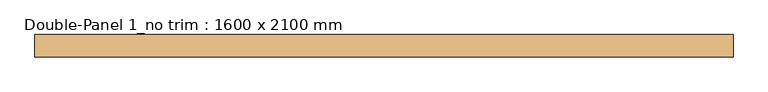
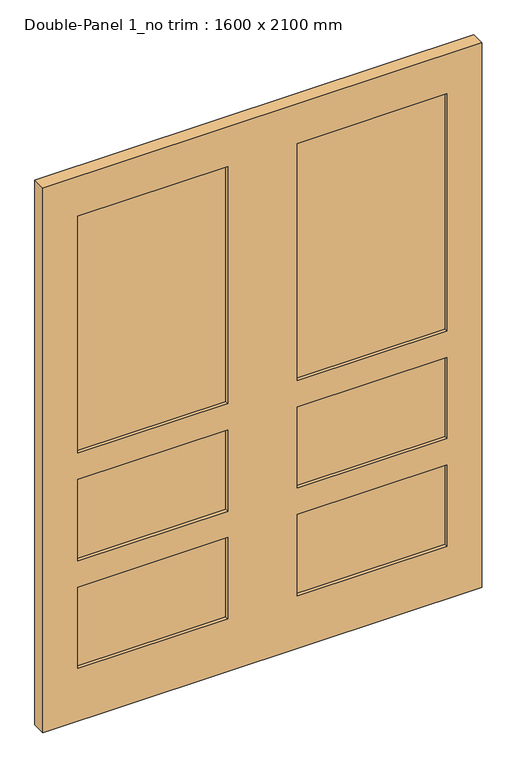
"""IFC4 building model written with IfcOpenShell, lengths in millimetres: door geometry, Double-Panel 1_no trim : 1600 x 2100 mm."""

from ifc_helpers import new_model, si_unit, frame, origin, place, context, project, spatial, polyline, outline, extrude, source, transform, mapped, element, save


def double_panel_1_no_trim_1600_x_2100_mm_973be516(model_context):
    return source(origin(), model_context, "Body", "SweptSolid", [
        extrude(outline(polyline([(127.0, 52.3), (673.0, 52.3), (673.0, 26.9), (127.0, 26.9), (127.0, 52.3)])), frame((0.0, 0.0, 1033.2), z_axis=(0.0, 0.0, 1.0), x_axis=(1.0, 0.0, 0.0)), (0.0, 0.0, 1.0), 914.4),
        extrude(outline(polyline([(127.0, 52.3), (673.0, 52.3), (673.0, 26.9), (127.0, 26.9), (127.0, 52.3)])), frame((0.0, 0.0, 618.2), z_axis=(0.0, 0.0, 1.0), x_axis=(1.0, 0.0, 0.0)), (0.0, 0.0, 1.0), 313.4),
        extrude(outline(polyline([(127.0, 52.3), (673.0, 52.3), (673.0, 26.9), (127.0, 26.9), (127.0, 52.3)])), frame((0.0, 0.0, 203.2), z_axis=(0.0, 0.0, 1.0), x_axis=(1.0, 0.0, 0.0)), (0.0, 0.0, 1.0), 313.4),
        extrude(outline(polyline([(-673.0, 52.3), (-127.0, 52.3), (-127.0, 26.9), (-673.0, 26.9), (-673.0, 52.3)])), frame((0.0, 0.0, 1033.2), z_axis=(0.0, 0.0, 1.0), x_axis=(1.0, 0.0, 0.0)), (0.0, 0.0, 1.0), 914.4),
        extrude(outline(polyline([(-673.0, 52.3), (-127.0, 52.3), (-127.0, 26.9), (-673.0, 26.9), (-673.0, 52.3)])), frame((0.0, 0.0, 618.2), z_axis=(0.0, 0.0, 1.0), x_axis=(1.0, 0.0, 0.0)), (0.0, 0.0, 1.0), 313.4),
        extrude(outline(polyline([(-673.0, 52.3), (-127.0, 52.3), (-127.0, 26.9), (-673.0, 26.9), (-673.0, 52.3)])), frame((0.0, 0.0, 203.2), z_axis=(0.0, 0.0, 1.0), x_axis=(1.0, 0.0, 0.0)), (0.0, 0.0, 1.0), 313.4),
        extrude(outline(polyline([(2100.0, -800.0), (0.0, -800.0), (0.0, 800.0), (2100.0, 800.0), (2100.0, -800.0)]), holes=[polyline([(1947.6, 127.0), (1947.6, 673.0), (1033.2, 673.0), (1033.2, 127.0), (1947.6, 127.0)]), polyline([(618.2, 673.0), (618.2, 127.0), (931.6, 127.0), (931.6, 673.0), (618.2, 673.0)]), polyline([(516.6, 673.0), (203.2, 673.0), (203.2, 127.0), (516.6, 127.0), (516.6, 673.0)]), polyline([(1947.6, -127.0), (1033.2, -127.0), (1033.2, -673.0), (1947.6, -673.0), (1947.6, -127.0)]), polyline([(931.6, -673.0), (931.6, -127.0), (618.2, -127.0), (618.2, -673.0), (931.6, -673.0)]), polyline([(203.2, -127.0), (203.2, -673.0), (516.6, -673.0), (516.6, -127.0), (203.2, -127.0)])]), frame((0.0, 14.2, 0.0), z_axis=(0.0, 1.0, 0.0), x_axis=(0.0, 0.0, 1.0)), (0.0, 0.0, 1.0), 50.8),
    ])


if __name__ == "__main__":
    model = new_model("IFC4")
    model_context = context("Model", 3, world=origin())
    ifc_project = project(units=[si_unit("LENGTHUNIT", "METRE", prefix="MILLI")], contexts=[model_context])
    site = spatial("IfcSite", under=ifc_project)
    building = spatial("IfcBuilding", under=site)
    placement = place(None, origin())
    double_panel_1_no_trim_1600_x_2100_mm_shape = double_panel_1_no_trim_1600_x_2100_mm_973be516(model_context)
    element("IfcDoor", 1, ObjectType="Double-Panel 1_no trim : 1600 x 2100 mm", at=placement, inside=building, context=model_context, shape_type="MappedRepresentation", body=[
        mapped(double_panel_1_no_trim_1600_x_2100_mm_shape, transform((0.0, 0.0, 0.0), x_axis=(1.0, 0.0, 0.0), y_axis=(0.0, 1.0, 0.0), z_axis=(0.0, 0.0, 1.0))),
    ])
    save(model, "model.ifc")
